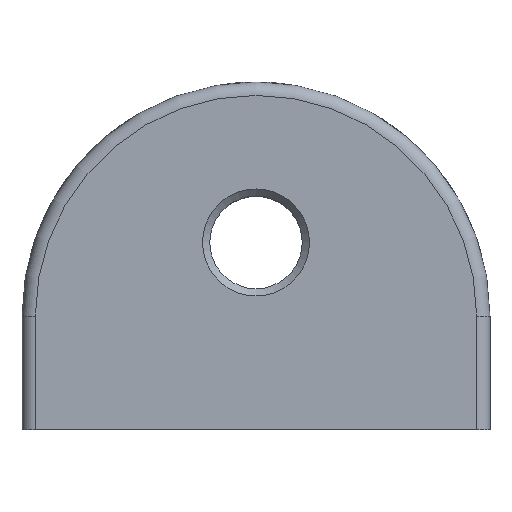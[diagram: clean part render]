
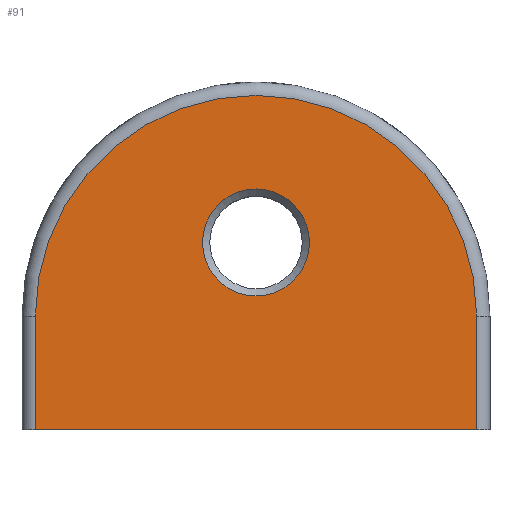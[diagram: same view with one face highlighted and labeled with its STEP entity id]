
A CAD part, top view. The second image highlights one B-rep face of the part: STEP entity #91.
In plain terms, the highlighted planar face has unit normal (0, 0, 1).
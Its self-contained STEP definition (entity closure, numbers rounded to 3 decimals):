
#91 = ADVANCED_FACE( '', ( #167, #168 ), #169, .F. );
#167 = FACE_BOUND( '', #296, .T. );
#168 = FACE_OUTER_BOUND( '', #297, .T. );
#169 = PLANE( '', #298 );
#296 = EDGE_LOOP( '', ( #491 ) );
#297 = EDGE_LOOP( '', ( #492, #493, #494, #495 ) );
#298 = AXIS2_PLACEMENT_3D( '', #496, #497, #498 );
#491 = ORIENTED_EDGE( '', *, *, #743, .T. );
#492 = ORIENTED_EDGE( '', *, *, #778, .F. );
#493 = ORIENTED_EDGE( '', *, *, #750, .F. );
#494 = ORIENTED_EDGE( '', *, *, #779, .T. );
#495 = ORIENTED_EDGE( '', *, *, #780, .T. );
#496 = CARTESIAN_POINT( '', ( -16.5, 8.5, 6. ) );
#497 = DIRECTION( '', ( 0., 0., -1. ) );
#498 = DIRECTION( '', ( -1., 0., 0. ) );
#743 = EDGE_CURVE( '', #848, #848, #849, .T. );
#750 = EDGE_CURVE( '', #861, #863, #864, .T. );
#778 = EDGE_CURVE( '', #863, #912, #913, .T. );
#779 = EDGE_CURVE( '', #861, #914, #915, .T. );
#780 = EDGE_CURVE( '', #914, #912, #916, .T. );
#848 = VERTEX_POINT( '', #1132 );
#849 = CIRCLE( '', #1133, 4. );
#861 = VERTEX_POINT( '', #1145 );
#863 = VERTEX_POINT( '', #1147 );
#864 = CIRCLE( '', #1148, 16.5 );
#912 = VERTEX_POINT( '', #1246 );
#913 = LINE( '', #1247, #1248 );
#914 = VERTEX_POINT( '', #1249 );
#915 = LINE( '', #1250, #1251 );
#916 = LINE( '', #1252, #1253 );
#1132 = CARTESIAN_POINT( '', ( -4., 14., 6. ) );
#1133 = AXIS2_PLACEMENT_3D( '', #1429, #1430, #1431 );
#1145 = CARTESIAN_POINT( '', ( -16.5, 8.5, 6. ) );
#1147 = CARTESIAN_POINT( '', ( 16.5, 8.5, 6. ) );
#1148 = AXIS2_PLACEMENT_3D( '', #1450, #1451, #1452 );
#1246 = CARTESIAN_POINT( '', ( 16.5, 0., 6. ) );
#1247 = CARTESIAN_POINT( '', ( 16.5, 8.5, 6. ) );
#1248 = VECTOR( '', #1503, 1000. );
#1249 = CARTESIAN_POINT( '', ( -16.5, 0., 6. ) );
#1250 = CARTESIAN_POINT( '', ( -16.5, 8.5, 6. ) );
#1251 = VECTOR( '', #1504, 1000. );
#1252 = CARTESIAN_POINT( '', ( -16.5, 0., 6. ) );
#1253 = VECTOR( '', #1505, 1000. );
#1429 = CARTESIAN_POINT( '', ( 0., 14., 6. ) );
#1430 = DIRECTION( '', ( 0., 0., -1. ) );
#1431 = DIRECTION( '', ( -1., 0., 0. ) );
#1450 = CARTESIAN_POINT( '', ( 0., 8.5, 6. ) );
#1451 = DIRECTION( '', ( 0., 0., -1. ) );
#1452 = DIRECTION( '', ( -1., 0., 0. ) );
#1503 = DIRECTION( '', ( 0., -1., 0. ) );
#1504 = DIRECTION( '', ( 0., -1., 0. ) );
#1505 = DIRECTION( '', ( 1., 0., 0. ) );
